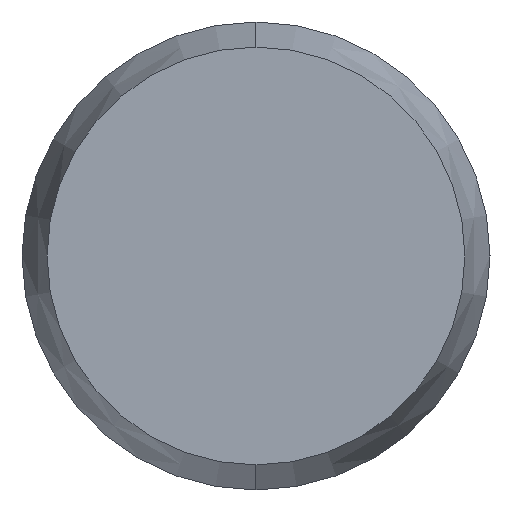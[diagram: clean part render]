
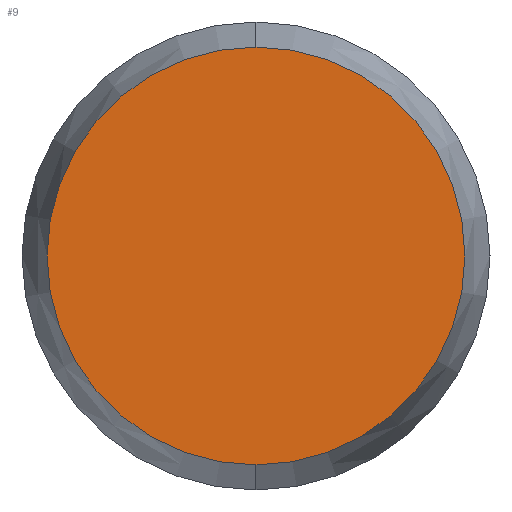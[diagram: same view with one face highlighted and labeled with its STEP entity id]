
A CAD part, left-side view. The second image highlights one B-rep face of the part: STEP entity #9.
In plain terms, the highlighted planar face has unit normal (-1, 0, 0).
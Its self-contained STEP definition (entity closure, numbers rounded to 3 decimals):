
#7 = ORIENTED_EDGE ( 'NONE', *, *, #48, .F. ) ;
#8 = EDGE_LOOP ( 'NONE', ( #7, #14 ) ) ;
#9 = ADVANCED_FACE ( 'NONE', ( #74 ), #73, .F. ) ;
#10 = EDGE_CURVE ( 'NONE', #50, #49, #84, .T. ) ;
#14 = ORIENTED_EDGE ( 'NONE', *, *, #10, .F. ) ;
#48 = EDGE_CURVE ( 'NONE', #49, #50, #227, .T. ) ;
#49 = VERTEX_POINT ( 'NONE', #182 ) ;
#50 = VERTEX_POINT ( 'NONE', #181 ) ;
#72 = DIRECTION ( 'NONE',  ( 1., 0., 0. ) ) ;
#73 = PLANE ( 'NONE',  #80 ) ;
#74 = FACE_OUTER_BOUND ( 'NONE', #8, .T. ) ;
#79 = CARTESIAN_POINT ( 'NONE',  ( -4., 0., 0. ) ) ;
#80 = AXIS2_PLACEMENT_3D ( 'NONE', #79, #72, #95 ) ;
#82 = DIRECTION ( 'NONE',  ( 0., 0., -1. ) ) ;
#83 = DIRECTION ( 'NONE',  ( 1., 0., 0. ) ) ;
#84 = CIRCLE ( 'NONE', #94, 0.893 ) ;
#94 = AXIS2_PLACEMENT_3D ( 'NONE', #96, #83, #82 ) ;
#95 = DIRECTION ( 'NONE',  ( 0., 0., -1. ) ) ;
#96 = CARTESIAN_POINT ( 'NONE',  ( -4., 0., 0. ) ) ;
#181 = CARTESIAN_POINT ( 'NONE',  ( -4., 0., -0.893 ) ) ;
#182 = CARTESIAN_POINT ( 'NONE',  ( -4., 0., 0.893 ) ) ;
#183 = DIRECTION ( 'NONE',  ( 0., 0., -1. ) ) ;
#184 = DIRECTION ( 'NONE',  ( 1., 0., 0. ) ) ;
#185 = CARTESIAN_POINT ( 'NONE',  ( -4., 0., 0. ) ) ;
#226 = AXIS2_PLACEMENT_3D ( 'NONE', #185, #184, #183 ) ;
#227 = CIRCLE ( 'NONE', #226, 0.893 ) ;
